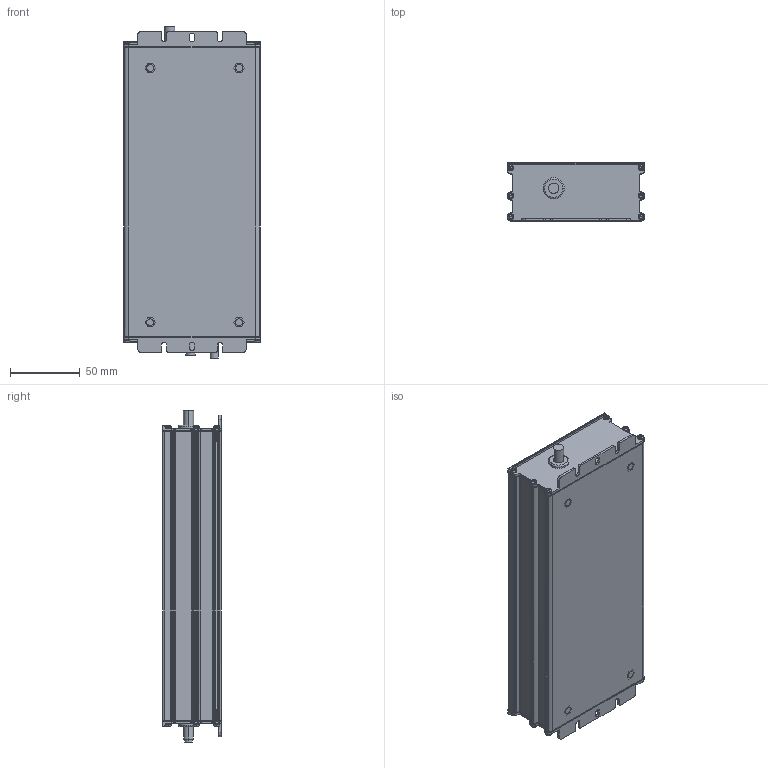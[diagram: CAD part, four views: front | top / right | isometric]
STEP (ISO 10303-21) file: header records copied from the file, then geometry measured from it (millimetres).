
FILE_DESCRIPTION((''),'2;1');
FILE_NAME('OT-320_ASM_ASM','2021-02-03T',('RI1130'),(''),'PRO/ENGINEER BY PARAMETRIC TECHNOLOGY CORPORATION, 2014320','PRO/ENGINEER BY PARAMETRIC TECHNOLOGY CORPORATION, 2014320','');
FILE_SCHEMA(('CONFIG_CONTROL_DESIGN'));
Length unit declared in the file: millimetre
Products named in the file (16): PRT0009; PRT0010; PRT0011; PRT0012; PRT0013; PRT0014; PRT0015; PRT0016; OT-320_1_ASM_ASM; PRT0017; PRT0018; OT-320_2_ASM_ASM; RIVETING_COLUMN_240_320_1; OT-320_0_ASM_ASM; ASM0014_ASM; OT-320_ASM_ASM
Assembly tree (29 placements, depth 5):
  OT-320_ASM_ASM
    ASM0014_ASM
      OT-320_0_ASM_ASM
        PRT0009
        PRT0010
        PRT0011
        PRT0012
        OT-320_1_ASM_ASM
          PRT0013
          PRT0014
          PRT0015
          PRT0016  x2
        OT-320_2_ASM_ASM
          PRT0017  x12
          PRT0018  x2
        RIVETING_COLUMN_240_320_1  x2
Bounding box: 98 x 42 x 238.6 mm (x, y, z)
Volume: 124731.6 mm3; surface area: 160523.1 mm2
Topology: 25 solids, 25 shells, 1099 faces, 3035 edges, 2030 vertices
Faces by surface type: cylinder 501, plane 402, bspline 96, torus 60, extrusion 40
Entity records: 19084 total; most frequent: CARTESIAN_POINT 5466, DIRECTION 2862, ORIENTED_EDGE 2762, EDGE_CURVE 1381, AXIS2_PLACEMENT_3D 1043, VERTEX_POINT 931, VECTOR 776, LINE 744
